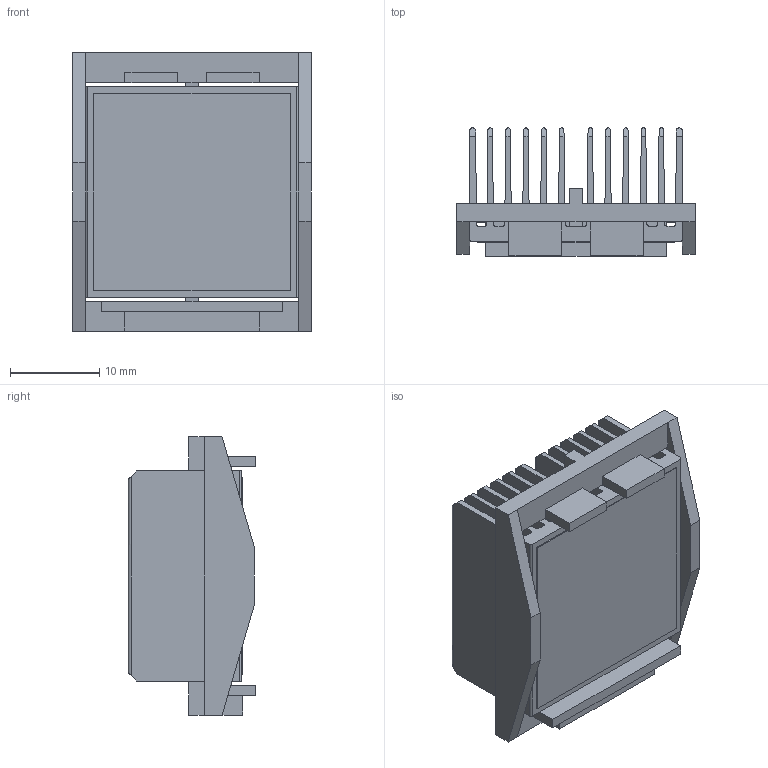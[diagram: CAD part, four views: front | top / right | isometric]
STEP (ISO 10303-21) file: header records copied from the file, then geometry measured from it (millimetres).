
FILE_DESCRIPTION (( 'STEP AP214' ), '1' );
FILE_NAME ('INL24001-13-1.7BU.STEP', '2023-02-21T18:22:29', ( '' ), ( '' ), 'SwSTEP 2.0', 'SolidWorks 2020', '' );
FILE_SCHEMA (( 'AUTOMOTIVE_DESIGN' ));
Length unit declared in the file: millimetre
Products named in the file (1): INL24001-13-1.7BU
Bounding box: 26.7 x 14.3 x 31.1 mm (x, y, z)
Volume: 3989.1 mm3; surface area: 10106.4 mm2
Topology: 3 solids, 3 shells, 152 faces, 440 edges, 292 vertices
Faces by surface type: plane 116, cylinder 36
Entity records: 6668 total; most frequent: CARTESIAN_POINT 957, ORIENTED_EDGE 880, DIRECTION 770, EDGE_CURVE 440, VECTOR 368, LINE 368, VERTEX_POINT 292, AXIS2_PLACEMENT_3D 201
